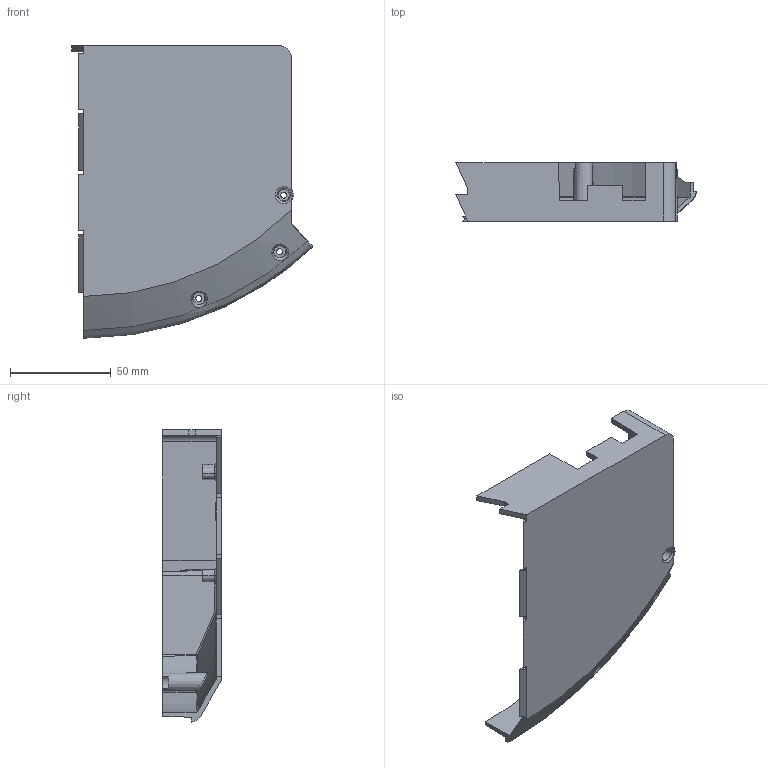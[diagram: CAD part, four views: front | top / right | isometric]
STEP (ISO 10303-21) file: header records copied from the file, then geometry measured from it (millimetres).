
FILE_DESCRIPTION((''),'2;1');
FILE_NAME('C600WITHOUTCASTERLEFT','2014-09-10T',('rmorin'),('iRobot'),'PRO/ENGINEER BY PARAMETRIC TECHNOLOGY CORPORATION, 2014090','PRO/ENGINEER BY PARAMETRIC TECHNOLOGY CORPORATION, 2014090','');
FILE_SCHEMA(('CONFIG_CONTROL_DESIGN'));
Length unit declared in the file: millimetre
Products named in the file (1): C600WITHOUTCASTERLEFT
Bounding box: 119.16 x 29 x 144.91 mm (x, y, z)
Volume: 56750.2 mm3; surface area: 46854.6 mm2
Topology: 1 solids, 1 shells, 331 faces, 879 edges, 574 vertices
Faces by surface type: plane 251, cone 46, bspline 16, torus 13, cylinder 3, sphere 2
Entity records: 12177 total; most frequent: CARTESIAN_POINT 3987, ORIENTED_EDGE 1758, DIRECTION 1565, EDGE_CURVE 879, VECTOR 677, LINE 677, VERTEX_POINT 574, AXIS2_PLACEMENT_3D 444
